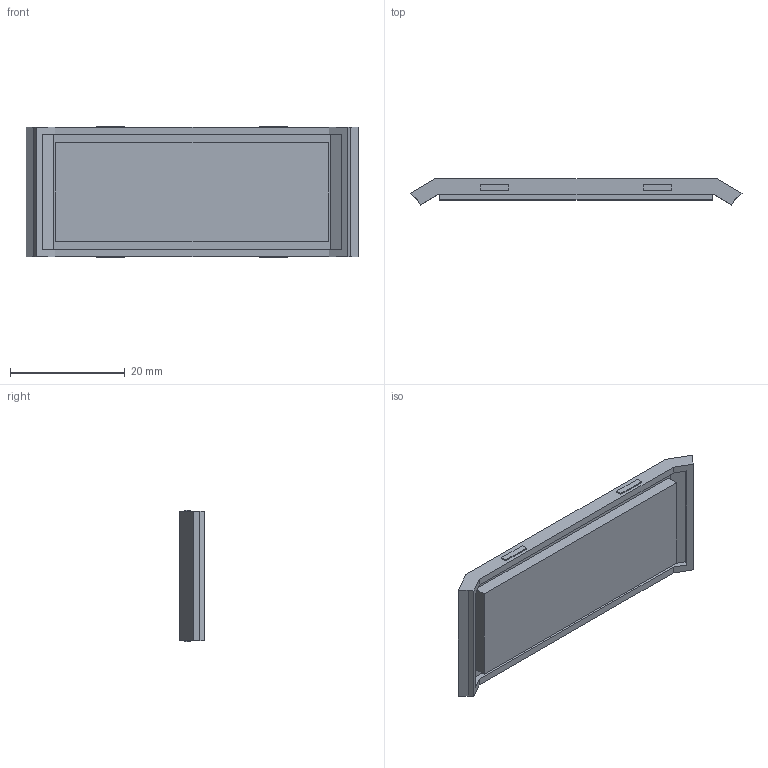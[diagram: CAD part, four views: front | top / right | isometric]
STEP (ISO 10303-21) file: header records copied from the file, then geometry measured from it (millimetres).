
FILE_DESCRIPTION (( 'STEP AP214' ), '1' );
FILE_NAME ('Tapeta visor PP29.STEP', '2018-08-07T15:42:35', ( 'aaa' ), ( '' ), 'SwSTEP 2.0', 'SolidWorks 2013', '' );
FILE_SCHEMA (( 'AUTOMOTIVE_DESIGN' ));
Length unit declared in the file: millimetre
Products named in the file (1): Tapeta visor PP29
Bounding box: 57.96 x 4.52 x 23 mm (x, y, z)
Volume: 3985.5 mm3; surface area: 3454.5 mm2
Topology: 1 solids, 1 shells, 45 faces, 114 edges, 76 vertices
Faces by surface type: plane 45
Entity records: 1362 total; most frequent: CARTESIAN_POINT 236, ORIENTED_EDGE 228, DIRECTION 206, LINE 114, EDGE_CURVE 114, VECTOR 114, VERTEX_POINT 76, EDGE_LOOP 50
